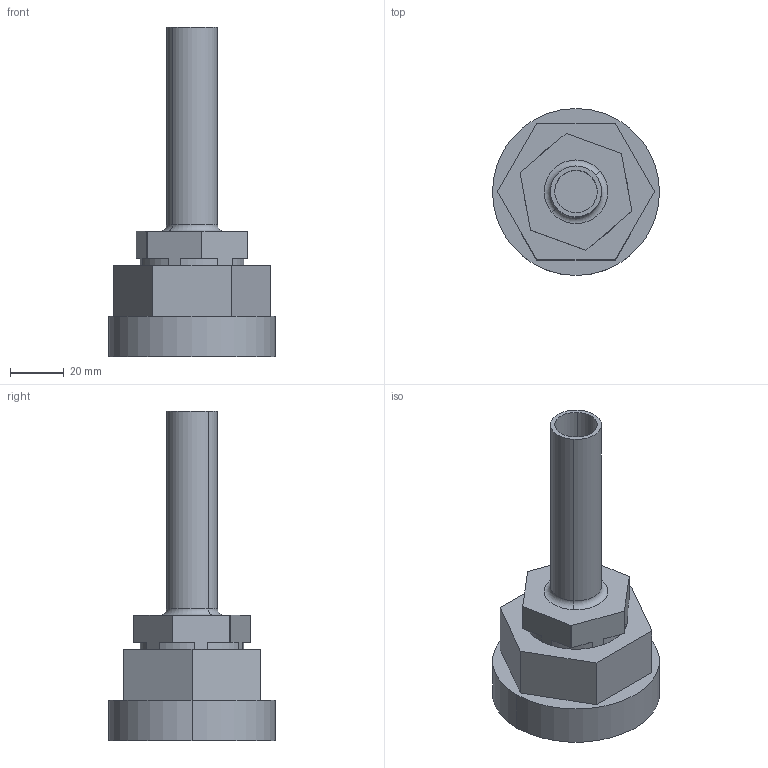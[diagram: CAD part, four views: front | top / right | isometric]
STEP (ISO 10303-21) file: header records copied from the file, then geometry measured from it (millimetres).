
FILE_DESCRIPTION (( 'STEP AP214' ), '1' );
FILE_NAME ('12-tube-out-top-mount.STEP', '2012-12-03T22:13:54', ( '' ), ( '' ), 'SwSTEP 2.0', 'SolidWorks 2012', '' );
FILE_SCHEMA (( 'AUTOMOTIVE_DESIGN' ));
Length unit declared in the file: inch
Products named in the file (3): 12-tube-out; top-out-adapter; 12-tube-out-top-mount
Assembly tree (2 placements, depth 2):
  12-tube-out-top-mount
    top-out-adapter
    12-tube-out
Bounding box: 62.33 x 62.33 x 123.09 mm (x, y, z)
Volume: 109886.5 mm3; surface area: 31459.7 mm2
Topology: 2 solids, 2 shells, 46 faces, 112 edges, 74 vertices
Faces by surface type: plane 26, cylinder 18, torus 2
Entity records: 1536 total; most frequent: DIRECTION 254, CARTESIAN_POINT 237, ORIENTED_EDGE 224, EDGE_CURVE 112, AXIS2_PLACEMENT_3D 91, VERTEX_POINT 74, VECTOR 72, LINE 72
